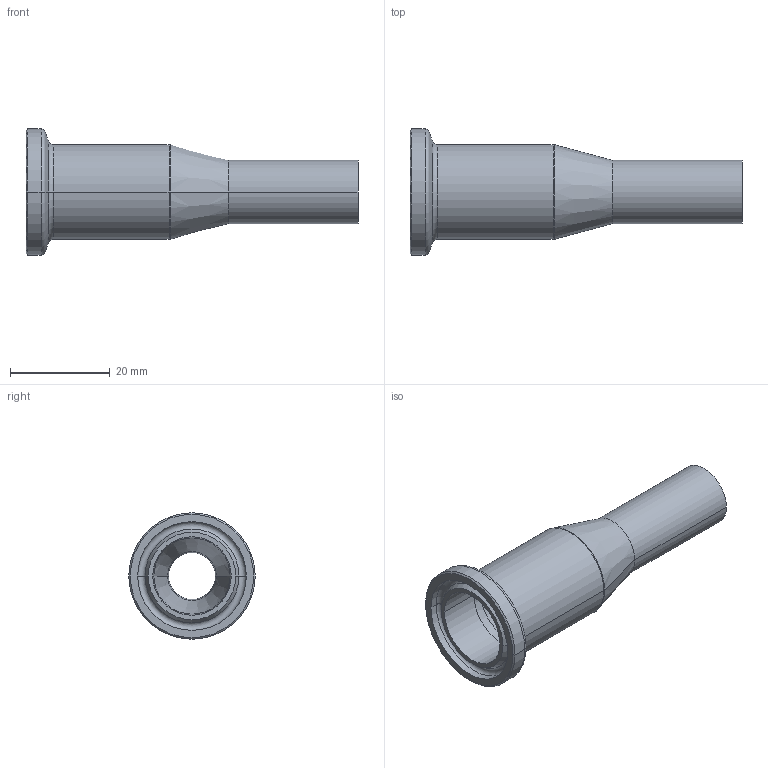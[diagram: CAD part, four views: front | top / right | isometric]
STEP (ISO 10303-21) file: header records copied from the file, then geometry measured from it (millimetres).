
FILE_DESCRIPTION (( 'STEP AP214' ), '1' );
FILE_NAME ('TE31SCW6L.75x.5-...STEP', '2016-05-29T11:47:43', ( 'eran' ), ( '' ), 'SwSTEP 2.0', 'SolidWorks 2016', '' );
FILE_SCHEMA (( 'AUTOMOTIVE_DESIGN' ));
Length unit declared in the file: millimetre
Products named in the file (1): TE31SCW6L.75x.5-..
Bounding box: 66.67 x 25.4 x 25.4 mm (x, y, z)
Volume: 7950.5 mm3; surface area: 6387.3 mm2
Topology: 1 solids, 1 shells, 37 faces, 74 edges, 40 vertices
Faces by surface type: torus 12, cylinder 12, cone 10, plane 3
Entity records: 994 total; most frequent: DIRECTION 202, CARTESIAN_POINT 152, ORIENTED_EDGE 148, AXIS2_PLACEMENT_3D 90, EDGE_CURVE 74, CIRCLE 52, VERTEX_POINT 40, EDGE_LOOP 40
